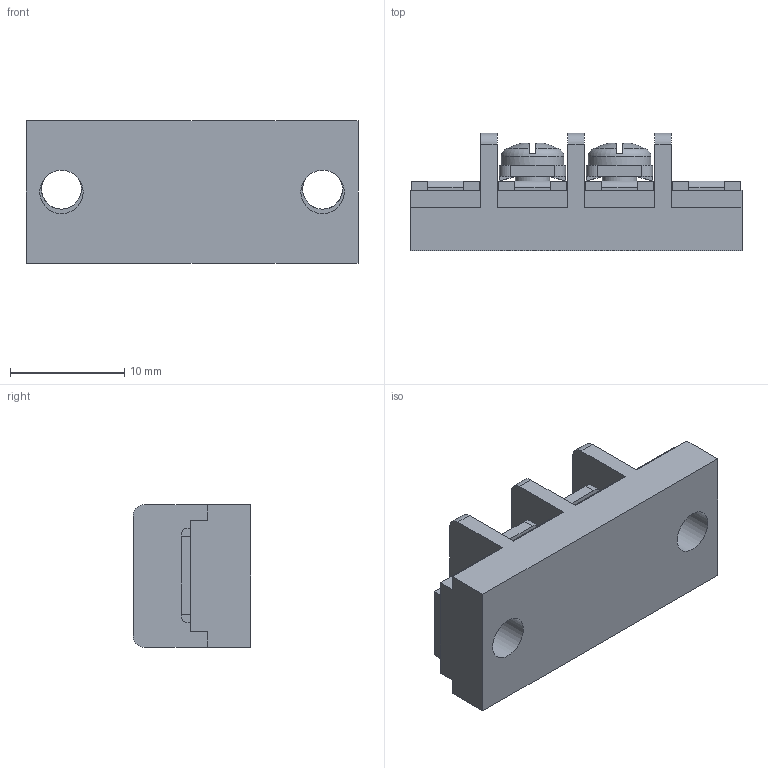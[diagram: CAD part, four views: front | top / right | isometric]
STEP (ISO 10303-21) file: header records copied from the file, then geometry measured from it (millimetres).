
FILE_DESCRIPTION(/* description */ ('Alibre Inc.'),/* implementation_level */ '2;1');
FILE_NAME(/* name */ 'export0',/* time_stamp */ '2015-10-26T18:08:51+09:00',/* author */ (''),/* organization */ (''),/* preprocessor_version */ 'ST-DEVELOPER v14',/* originating_system */ 'Alibre',/* authorisation */ '');
FILE_SCHEMA (('CONFIG_CONTROL_DESIGN'));
Length unit declared in the file: centimetre
Products named in the file (1): ID_1
Bounding box: 29.06 x 10.3 x 12.5 mm (x, y, z)
Volume: 2253.5 mm3; surface area: 2117.3 mm2
Topology: 1 solids, 17 shells, 622 faces, 1658 edges, 1098 vertices
Faces by surface type: plane 470, bspline 104, cylinder 32, cone 8, torus 4, sphere 4
Full cylindrical faces by diameter (mm): 3 x2, 3.5 x2, 3.8 x2, 5.5 x2
Entity records: 18527 total; most frequent: CARTESIAN_POINT 4403, ORIENTED_EDGE 3268, DIRECTION 2022, EDGE_CURVE 1634, VECTOR 1236, LINE 1236, VERTEX_POINT 1086, EDGE_LOOP 674
